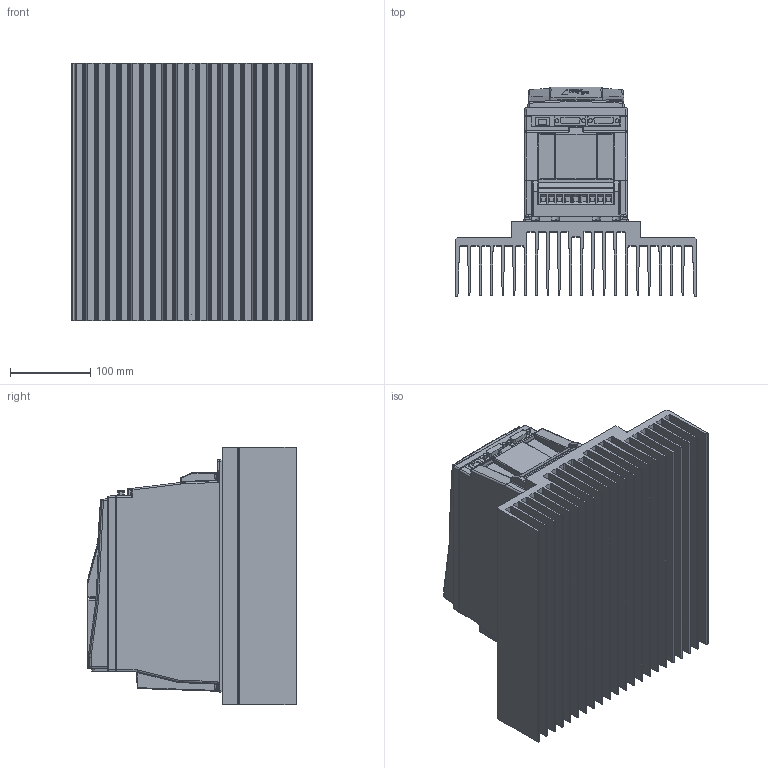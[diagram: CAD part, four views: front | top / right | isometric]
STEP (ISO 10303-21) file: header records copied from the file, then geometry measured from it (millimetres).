
FILE_DESCRIPTION (( 'STEP AP214' ), '1' );
FILE_NAME ('F6-2 TR7-K000.STEP', '2024-02-26T10:15:37', ( '' ), ( '' ), 'SwSTEP 2.0', 'SolidWorks 2022', '' );
FILE_SCHEMA (( 'AUTOMOTIVE_DESIGN' ));
Length unit declared in the file: millimetre
Products named in the file (1): F6-2 TR7-K000
Bounding box: 300 x 261.06 x 321 mm (x, y, z)
Volume: 7646176 mm3; surface area: 1331234.6 mm2
Topology: 2 solids, 11 shells, 1494 faces, 3842 edges, 2369 vertices
Faces by surface type: plane 677, cylinder 458, bspline 176, cone 96, torus 51, sphere 36
Entity records: 51854 total; most frequent: CARTESIAN_POINT 16932, ORIENTED_EDGE 7560, DIRECTION 6860, EDGE_CURVE 3780, VERTEX_POINT 2369, AXIS2_PLACEMENT_3D 2339, LINE 2182, VECTOR 2182
